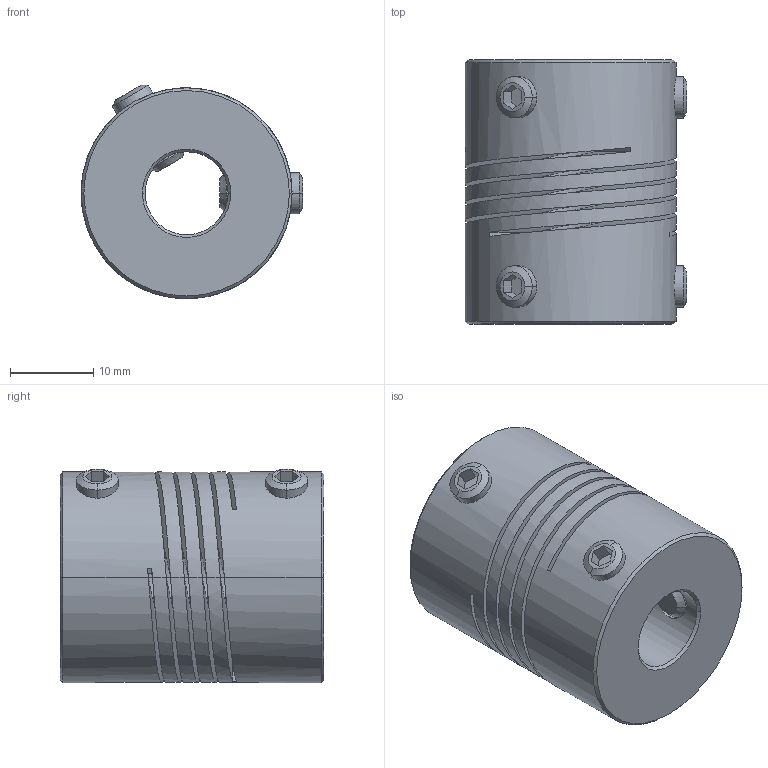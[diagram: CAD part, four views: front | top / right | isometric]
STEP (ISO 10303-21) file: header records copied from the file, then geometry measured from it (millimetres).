
FILE_DESCRIPTION((''),'2;1');
FILE_NAME('724_25_ASM','2006-12-05T',('Gary Melling'),(''),'PRO/ENGINEER BY PARAMETRIC TECHNOLOGY CORPORATION, 2006240','PRO/ENGINEER BY PARAMETRIC TECHNOLOGY CORPORATION, 2006240','');
FILE_SCHEMA(('CONFIG_CONTROL_DESIGN'));
Length unit declared in the file: millimetre
Products named in the file (3): 724_25; GS_5M; 724_25_ASM
Assembly tree (5 placements, depth 2):
  724_25_ASM
    724_25
    GS_5M  x4
Bounding box: 26.7 x 31.8 x 25.7 mm (x, y, z)
Volume: 12512.1 mm3; surface area: 9222 mm2
Topology: 5 solids, 5 shells, 114 faces, 300 edges, 192 vertices
Faces by surface type: plane 46, cylinder 38, cone 24, bspline 6
Entity records: 4199 total; most frequent: CARTESIAN_POINT 2364, ORIENTED_EDGE 408, DIRECTION 302, EDGE_CURVE 204, VERTEX_POINT 132, AXIS2_PLACEMENT_3D 103, VECTOR 96, LINE 96
